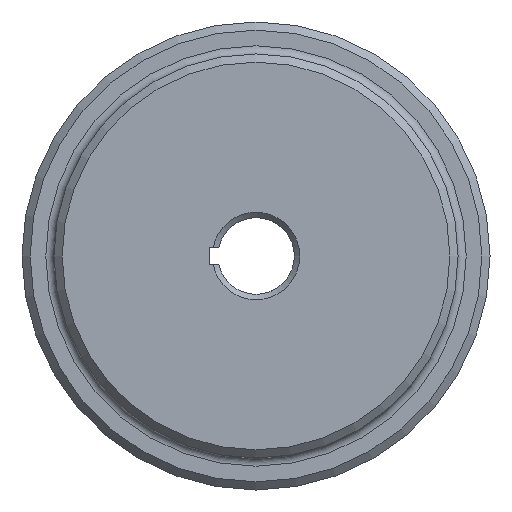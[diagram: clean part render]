
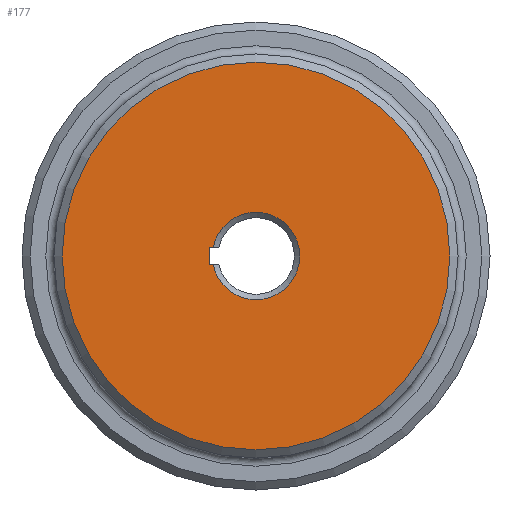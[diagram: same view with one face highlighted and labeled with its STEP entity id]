
A CAD part, left-side view. The second image highlights one B-rep face of the part: STEP entity #177.
In plain terms, the highlighted planar face has unit normal (-1, 0, 0).
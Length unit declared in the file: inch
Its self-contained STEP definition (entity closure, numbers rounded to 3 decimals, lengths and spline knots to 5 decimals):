
#17 = EDGE_CURVE ( 'NONE', #674, #1830, #1420, .T. ) ;
#88 = ORIENTED_EDGE ( 'NONE', *, *, #815, .T. ) ;
#120 = DIRECTION ( 'NONE',  ( 0., 1., 0. ) ) ;
#151 = CARTESIAN_POINT ( 'NONE',  ( 0., 0.3426, 0.0625 ) ) ;
#153 = EDGE_LOOP ( 'NONE', ( #1113, #1531, #1186, #1546 ) ) ;
#177 = ADVANCED_FACE ( 'NONE', ( #1127, #1430 ), #482, .F. ) ;
#250 = AXIS2_PLACEMENT_3D ( 'NONE', #2358, #1202, #1627 ) ;
#281 = CIRCLE ( 'NONE', #250, 1.425 ) ;
#300 = CARTESIAN_POINT ( 'NONE',  ( 0., 0., -0.0625 ) ) ;
#363 = CARTESIAN_POINT ( 'NONE',  ( 0., 0.3426, -0.0625 ) ) ;
#365 = EDGE_CURVE ( 'NONE', #1965, #1830, #1231, .T. ) ;
#438 = VECTOR ( 'NONE', #1705, 39.37008 ) ;
#482 = PLANE ( 'NONE',  #1685 ) ;
#657 = DIRECTION ( 'NONE',  ( 1., 0., 0. ) ) ;
#674 = VERTEX_POINT ( 'NONE', #363 ) ;
#691 = CARTESIAN_POINT ( 'NONE',  ( 0., 0., 0. ) ) ;
#694 = AXIS2_PLACEMENT_3D ( 'NONE', #1994, #1211, #2251 ) ;
#815 = EDGE_CURVE ( 'NONE', #1150, #1150, #281, .T. ) ;
#960 = CARTESIAN_POINT ( 'NONE',  ( 0., 0.31526, -0.0625 ) ) ;
#967 = LINE ( 'NONE', #2100, #438 ) ;
#1113 = ORIENTED_EDGE ( 'NONE', *, *, #1353, .F. ) ;
#1127 = FACE_OUTER_BOUND ( 'NONE', #1281, .T. ) ;
#1150 = VERTEX_POINT ( 'NONE', #1763 ) ;
#1160 = EDGE_CURVE ( 'NONE', #1651, #674, #967, .T. ) ;
#1164 = LINE ( 'NONE', #1517, #1229 ) ;
#1186 = ORIENTED_EDGE ( 'NONE', *, *, #17, .F. ) ;
#1202 = DIRECTION ( 'NONE',  ( -1., 0., 0. ) ) ;
#1211 = DIRECTION ( 'NONE',  ( 1., 0., 0. ) ) ;
#1229 = VECTOR ( 'NONE', #120, 39.37008 ) ;
#1231 = CIRCLE ( 'NONE', #694, 0.3214 ) ;
#1251 = CARTESIAN_POINT ( 'NONE',  ( 0., 0.31526, 0.0625 ) ) ;
#1281 = EDGE_LOOP ( 'NONE', ( #88 ) ) ;
#1353 = EDGE_CURVE ( 'NONE', #1965, #1651, #1164, .T. ) ;
#1420 = LINE ( 'NONE', #300, #2045 ) ;
#1430 = FACE_BOUND ( 'NONE', #153, .T. ) ;
#1517 = CARTESIAN_POINT ( 'NONE',  ( 0., 0., 0.0625 ) ) ;
#1531 = ORIENTED_EDGE ( 'NONE', *, *, #365, .T. ) ;
#1546 = ORIENTED_EDGE ( 'NONE', *, *, #1160, .F. ) ;
#1627 = DIRECTION ( 'NONE',  ( 0., 0., -1. ) ) ;
#1651 = VERTEX_POINT ( 'NONE', #151 ) ;
#1685 = AXIS2_PLACEMENT_3D ( 'NONE', #691, #657, #2023 ) ;
#1705 = DIRECTION ( 'NONE',  ( 0., 0., -1. ) ) ;
#1763 = CARTESIAN_POINT ( 'NONE',  ( 0., 0., -1.425 ) ) ;
#1830 = VERTEX_POINT ( 'NONE', #960 ) ;
#1965 = VERTEX_POINT ( 'NONE', #1251 ) ;
#1994 = CARTESIAN_POINT ( 'NONE',  ( 0., 0., 0. ) ) ;
#2023 = DIRECTION ( 'NONE',  ( 0., 0., -1. ) ) ;
#2045 = VECTOR ( 'NONE', #2204, 39.37008 ) ;
#2100 = CARTESIAN_POINT ( 'NONE',  ( 0., 0.3426, -0.0625 ) ) ;
#2204 = DIRECTION ( 'NONE',  ( 0., -1., 0. ) ) ;
#2251 = DIRECTION ( 'NONE',  ( 0., 0., -1. ) ) ;
#2358 = CARTESIAN_POINT ( 'NONE',  ( 0., 0., 0. ) ) ;
